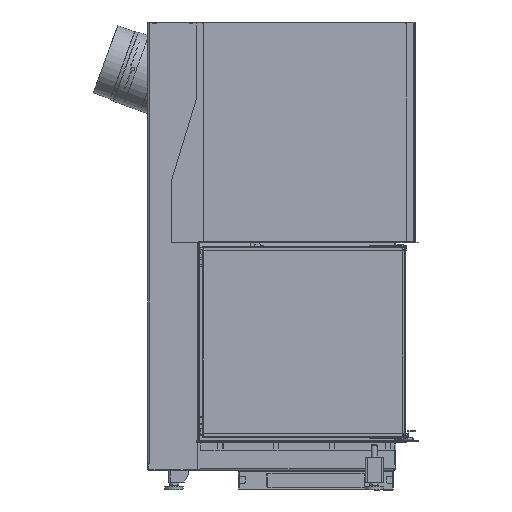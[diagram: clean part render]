
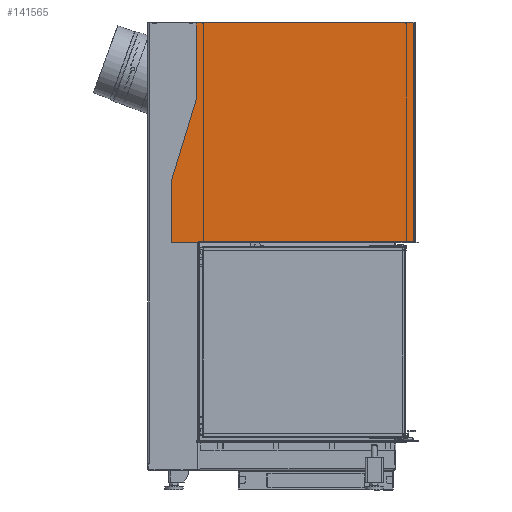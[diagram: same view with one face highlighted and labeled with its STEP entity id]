
A CAD part, left-side view. The second image highlights one B-rep face of the part: STEP entity #141565.
In plain terms, the highlighted planar face has unit normal (-1, 0, 0).
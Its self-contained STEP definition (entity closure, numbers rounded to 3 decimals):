
#6312=FACE_OUTER_BOUND('',#14115,.T.);
#14115=EDGE_LOOP('',(#95364,#95365,#95366,#95367,#95368,#95369,#95370,#95371,
#95372,#95373,#95374,#95375,#95376,#95377,#95378,#95379,#95380,#95381,#95382));
#21926=CIRCLE('',#150236,3.);
#21927=CIRCLE('',#150237,3.);
#21928=CIRCLE('',#150238,1.);
#21929=CIRCLE('',#150239,0.1);
#21930=CIRCLE('',#150240,3.);
#21931=CIRCLE('',#150241,3.);
#21932=CIRCLE('',#150242,0.1);
#21933=CIRCLE('',#150243,3.);
#28596=LINE('',#212505,#42771);
#28597=LINE('',#212509,#42772);
#28598=LINE('',#212513,#42773);
#28599=LINE('',#212517,#42774);
#28600=LINE('',#212519,#42775);
#28601=LINE('',#212521,#42776);
#28602=LINE('',#212525,#42777);
#28603=LINE('',#212531,#42778);
#28604=LINE('',#212533,#42779);
#28605=LINE('',#212535,#42780);
#28606=LINE('',#212538,#42781);
#42771=VECTOR('',#167621,10.);
#42772=VECTOR('',#167624,10.);
#42773=VECTOR('',#167627,10.);
#42774=VECTOR('',#167630,10.);
#42775=VECTOR('',#167631,10.);
#42776=VECTOR('',#167632,10.);
#42777=VECTOR('',#167635,10.);
#42778=VECTOR('',#167640,10.);
#42779=VECTOR('',#167641,10.);
#42780=VECTOR('',#167642,10.);
#42781=VECTOR('',#167645,10.);
#57010=VERTEX_POINT('',#212501);
#57011=VERTEX_POINT('',#212502);
#57012=VERTEX_POINT('',#212504);
#57013=VERTEX_POINT('',#212506);
#57014=VERTEX_POINT('',#212508);
#57015=VERTEX_POINT('',#212510);
#57016=VERTEX_POINT('',#212512);
#57017=VERTEX_POINT('',#212514);
#57018=VERTEX_POINT('',#212516);
#57019=VERTEX_POINT('',#212518);
#57020=VERTEX_POINT('',#212520);
#57021=VERTEX_POINT('',#212522);
#57022=VERTEX_POINT('',#212524);
#57023=VERTEX_POINT('',#212526);
#57024=VERTEX_POINT('',#212528);
#57025=VERTEX_POINT('',#212530);
#57026=VERTEX_POINT('',#212532);
#57027=VERTEX_POINT('',#212534);
#57028=VERTEX_POINT('',#212536);
#71445=EDGE_CURVE('',#57010,#57011,#21926,.T.);
#71446=EDGE_CURVE('',#57010,#57012,#28596,.T.);
#71447=EDGE_CURVE('',#57013,#57012,#21927,.T.);
#71448=EDGE_CURVE('',#57014,#57013,#28597,.T.);
#71449=EDGE_CURVE('',#57015,#57014,#21928,.T.);
#71450=EDGE_CURVE('',#57015,#57016,#28598,.T.);
#71451=EDGE_CURVE('',#57016,#57017,#21929,.T.);
#71452=EDGE_CURVE('',#57017,#57018,#28599,.T.);
#71453=EDGE_CURVE('',#57018,#57019,#28600,.T.);
#71454=EDGE_CURVE('',#57019,#57020,#28601,.T.);
#71455=EDGE_CURVE('',#57021,#57020,#21930,.T.);
#71456=EDGE_CURVE('',#57022,#57021,#28602,.T.);
#71457=EDGE_CURVE('',#57023,#57022,#21931,.T.);
#71458=EDGE_CURVE('',#57023,#57024,#21932,.T.);
#71459=EDGE_CURVE('',#57024,#57025,#28603,.T.);
#71460=EDGE_CURVE('',#57026,#57025,#28604,.T.);
#71461=EDGE_CURVE('',#57027,#57026,#28605,.T.);
#71462=EDGE_CURVE('',#57028,#57027,#21933,.T.);
#71463=EDGE_CURVE('',#57028,#57011,#28606,.T.);
#95364=ORIENTED_EDGE('',*,*,#71445,.F.);
#95365=ORIENTED_EDGE('',*,*,#71446,.T.);
#95366=ORIENTED_EDGE('',*,*,#71447,.F.);
#95367=ORIENTED_EDGE('',*,*,#71448,.F.);
#95368=ORIENTED_EDGE('',*,*,#71449,.F.);
#95369=ORIENTED_EDGE('',*,*,#71450,.T.);
#95370=ORIENTED_EDGE('',*,*,#71451,.T.);
#95371=ORIENTED_EDGE('',*,*,#71452,.T.);
#95372=ORIENTED_EDGE('',*,*,#71453,.T.);
#95373=ORIENTED_EDGE('',*,*,#71454,.T.);
#95374=ORIENTED_EDGE('',*,*,#71455,.F.);
#95375=ORIENTED_EDGE('',*,*,#71456,.F.);
#95376=ORIENTED_EDGE('',*,*,#71457,.F.);
#95377=ORIENTED_EDGE('',*,*,#71458,.T.);
#95378=ORIENTED_EDGE('',*,*,#71459,.T.);
#95379=ORIENTED_EDGE('',*,*,#71460,.F.);
#95380=ORIENTED_EDGE('',*,*,#71461,.F.);
#95381=ORIENTED_EDGE('',*,*,#71462,.F.);
#95382=ORIENTED_EDGE('',*,*,#71463,.T.);
#133204=PLANE('',#150235);
#141565=ADVANCED_FACE('',(#6312),#133204,.T.);
#150235=AXIS2_PLACEMENT_3D('',#212500,#167617,#167618);
#150236=AXIS2_PLACEMENT_3D('',#212503,#167619,#167620);
#150237=AXIS2_PLACEMENT_3D('',#212507,#167622,#167623);
#150238=AXIS2_PLACEMENT_3D('',#212511,#167625,#167626);
#150239=AXIS2_PLACEMENT_3D('',#212515,#167628,#167629);
#150240=AXIS2_PLACEMENT_3D('',#212523,#167633,#167634);
#150241=AXIS2_PLACEMENT_3D('',#212527,#167636,#167637);
#150242=AXIS2_PLACEMENT_3D('',#212529,#167638,#167639);
#150243=AXIS2_PLACEMENT_3D('',#212537,#167643,#167644);
#167617=DIRECTION('center_axis',(-1.,0.,0.));
#167618=DIRECTION('ref_axis',(0.,-1.,0.));
#167619=DIRECTION('center_axis',(1.,0.,0.));
#167620=DIRECTION('ref_axis',(0.,0.989,0.148));
#167621=DIRECTION('',(0.,0.,-1.));
#167622=DIRECTION('center_axis',(1.,0.,0.));
#167623=DIRECTION('ref_axis',(0.,0.707,-0.707));
#167624=DIRECTION('',(0.,1.,0.));
#167625=DIRECTION('center_axis',(1.,0.,0.));
#167626=DIRECTION('ref_axis',(0.,-0.707,-0.707));
#167627=DIRECTION('',(0.,0.,1.));
#167628=DIRECTION('center_axis',(1.,0.,0.));
#167629=DIRECTION('ref_axis',(0.,-1.,0.));
#167630=DIRECTION('',(0.,0.,-1.));
#167631=DIRECTION('',(0.,-1.,0.));
#167632=DIRECTION('',(0.,0.,1.));
#167633=DIRECTION('center_axis',(1.,0.,0.));
#167634=DIRECTION('ref_axis',(0.,-0.707,0.707));
#167635=DIRECTION('',(0.,-1.,0.));
#167636=DIRECTION('center_axis',(1.,0.,0.));
#167637=DIRECTION('ref_axis',(0.,0.,
-1.));
#167638=DIRECTION('center_axis',(1.,0.,0.));
#167639=DIRECTION('ref_axis',(0.,1.,0.));
#167640=DIRECTION('',(0.,0.,1.));
#167641=DIRECTION('',(0.,-1.,0.));
#167642=DIRECTION('',(0.,0.,1.));
#167643=DIRECTION('center_axis',(-1.,0.,0.));
#167644=DIRECTION('ref_axis',(0.,-0.989,
-0.148));
#167645=DIRECTION('',(0.,0.292,-0.956));
#212500=CARTESIAN_POINT('Origin',(-270.,-93.496,989.941));
#212501=CARTESIAN_POINT('',(-270.,278.504,800.092));
#212502=CARTESIAN_POINT('',(-270.,278.373,800.969));
#212503=CARTESIAN_POINT('Origin',(-270.,275.504,800.092));
#212504=CARTESIAN_POINT('',(-270.,278.504,635.5));
#212505=CARTESIAN_POINT('',(-270.,278.504,1029.5));
#212506=CARTESIAN_POINT('',(-270.,275.504,632.5));
#212507=CARTESIAN_POINT('Origin',(-270.,275.504,635.5));
#212508=CARTESIAN_POINT('',(-270.,202.704,632.5));
#212509=CARTESIAN_POINT('',(-270.,-395.496,632.5));
#212510=CARTESIAN_POINT('',(-270.,201.704,633.5));
#212511=CARTESIAN_POINT('Origin',(-270.,202.704,633.5));
#212512=CARTESIAN_POINT('',(-270.,201.704,635.35));
#212513=CARTESIAN_POINT('',(-270.,201.704,812.646));
#212514=CARTESIAN_POINT('',(-270.,201.504,635.35));
#212515=CARTESIAN_POINT('Origin',(-270.,201.604,635.35));
#212516=CARTESIAN_POINT('',(-270.,201.504,635.25));
#212517=CARTESIAN_POINT('',(-270.,201.504,811.221));
#212518=CARTESIAN_POINT('',(-270.,-395.496,635.25));
#212519=CARTESIAN_POINT('',(-270.,-244.496,635.25));
#212520=CARTESIAN_POINT('',(-270.,-395.496,1239.25));
#212521=CARTESIAN_POINT('',(-270.,-395.496,632.5));
#212522=CARTESIAN_POINT('',(-270.,-392.496,1242.25));
#212523=CARTESIAN_POINT('Origin',(-270.,-392.496,1239.25));
#212524=CARTESIAN_POINT('',(-270.,-374.426,1242.25));
#212525=CARTESIAN_POINT('',(-270.,-93.496,1242.25));
#212526=CARTESIAN_POINT('',(-270.,-373.139,1241.96));
#212527=CARTESIAN_POINT('Origin',(-270.,-374.426,1239.25));
#212528=CARTESIAN_POINT('',(-270.,-372.996,1242.05));
#212529=CARTESIAN_POINT('Origin',(-270.,-373.096,1242.05));
#212530=CARTESIAN_POINT('',(-270.,-372.996,1242.25));
#212531=CARTESIAN_POINT('',(-270.,-372.996,1116.096));
#212532=CARTESIAN_POINT('',(-270.,208.504,1242.25));
#212533=CARTESIAN_POINT('',(-270.,-93.496,1242.25));
#212534=CARTESIAN_POINT('',(-270.,208.504,1029.948));
#212535=CARTESIAN_POINT('',(-270.,208.504,632.5));
#212536=CARTESIAN_POINT('',(-270.,208.635,1029.071));
#212537=CARTESIAN_POINT('Origin',(-270.,211.504,1029.948));
#212538=CARTESIAN_POINT('',(-270.,201.127,1053.63));
